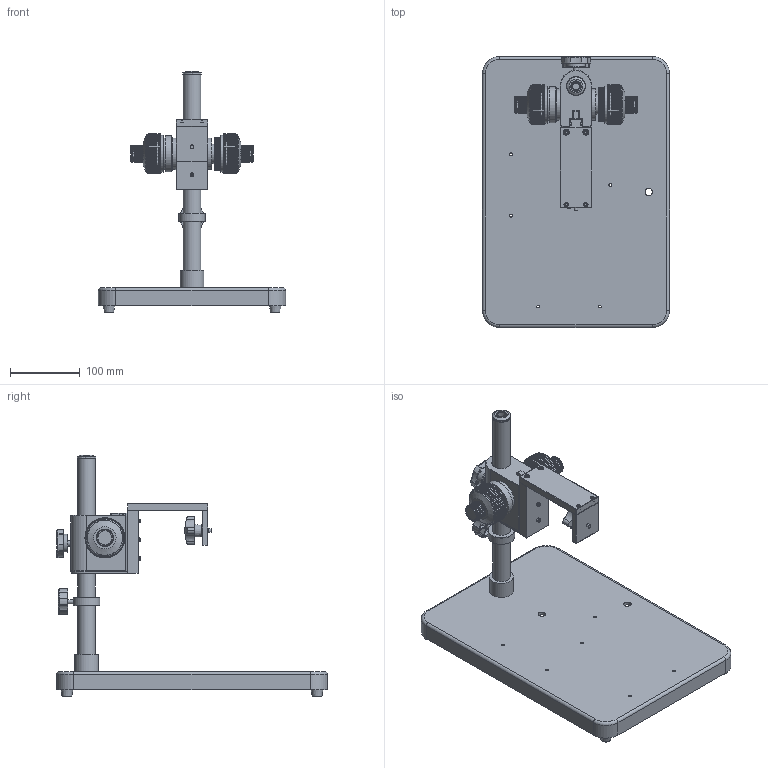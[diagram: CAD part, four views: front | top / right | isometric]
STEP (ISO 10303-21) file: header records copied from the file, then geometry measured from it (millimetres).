
FILE_DESCRIPTION(('STEP AP214'),'1');
FILE_NAME('GRS-K-115.stp','2026-01-06T01:49:03',(' '),(' '),'Spatial InterOp 3D',' ',' ');
FILE_SCHEMA(('AUTOMOTIVE_DESIGN { 1 0 10303 214 1 1 1 1 }'));
Length unit declared in the file: metre
Products named in the file (5): GRS-K-115; Component1; Component2; Component3; Component4
Assembly tree (4 placements, depth 2):
  GRS-K-115
    Component1
    Component2
    Component3
    Component4
Bounding box: 268 x 388 x 345.9 mm (x, y, z)
Volume: 1221354.1 mm3; surface area: 459125.2 mm2
Topology: 6 solids, 17 shells, 2517 faces, 6621 edges, 4217 vertices
Faces by surface type: plane 1201, cylinder 853, torus 311, bspline 93, cone 55, sphere 4
Full cylindrical faces by diameter (mm): 2 x4, 2.4 x4, 2.5 x5, 3.4 x3, 4 x10, 4.25 x1, 5.1 x2, 5.6 x5, 6 x1, 6.4 x2, 6.5 x4, 6.9 x2, 7.3 x4, 8 x2, 8.5 x2, 9.8 x1, 10 x3, 10.5 x3, 11.7 x2, 12.8 x1, 15 x1, 15.2 x1, 17.4 x1, 18 x1, 20 x2, 21 x3, 22 x1, 22.5 x2, 24.5 x2, 25 x2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
Entity records: 166830 total; most frequent: CARTESIAN_POINT 53730, DIRECTION 12820, ORIENTED_EDGE 12726, STYLED_ITEM 8886, PRESENTATION_STYLE_ASSIGNMENT 8886, COLOUR_RGB 8886, EDGE_CURVE 6363, CURVE_STYLE 6363
